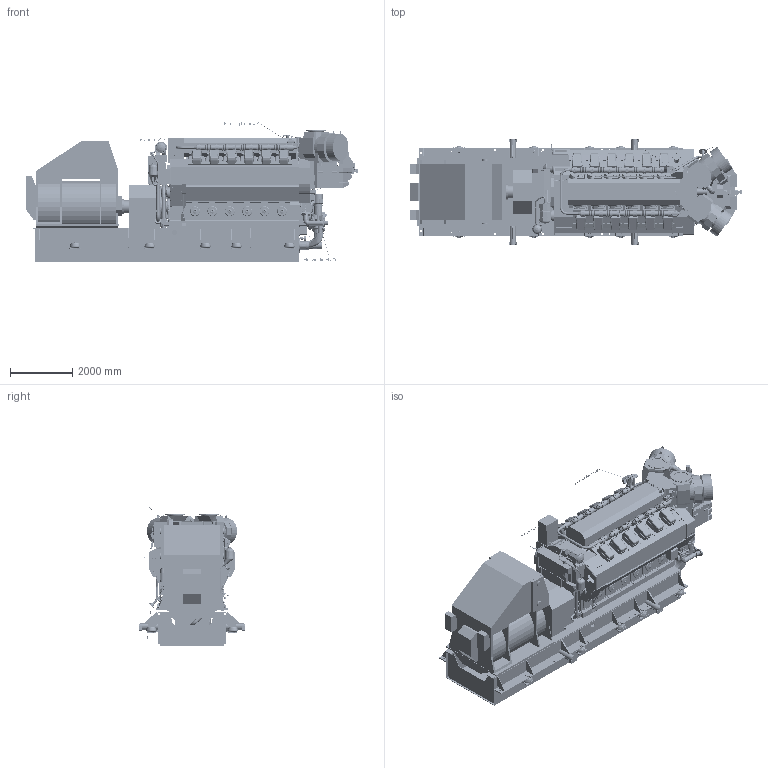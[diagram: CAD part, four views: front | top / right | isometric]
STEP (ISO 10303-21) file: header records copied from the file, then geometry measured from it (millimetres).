
FILE_DESCRIPTION(/* description */ (''),/* implementation_level */ '2;1');
FILE_NAME(/* name */ 'DAAF379595_B.stp',/* time_stamp */ '2021-12-10T12:50:35+02:00',/* author */ (''),/* organization */ (''),/* preprocessor_version */ 'ST-DEVELOPER v16.7',/* originating_system */ 'SIEMENS PLM Software NX 1915',/* authorisation */ '');
FILE_SCHEMA (('AUTOMOTIVE_DESIGN { 1 0 10303 214 3 1 1 1 }'));
Products named in the file (83): PABA274494_-; PAAF695508_-; PAAF093449_-; PAAF074446_-; PABA053131_-; PABA002081_-; PAAF243367_-; PAAF066761_-; PAAF688045_-; PAAF688053_-; PABA173946_-; PABA156629_-; PABA068010_-; PABA067993_-; PAAF074393_-; PAAF078522_-; PABA001772_-; PABA002426_-; PAAF078708_-; PAAF688051_-; PABA041040_-; PAAF243373_-; PAAF689738_-; PAAF211478_-; PAAF427671_-; PAAF450547_-; PAAF695507_-; PABA033164_-; PAAF066738_-; PAAF093834_-; PAAF078635_-; PAAF077590_-; PAAF078607_-; PAAF078553_-; PAAF077589_-; PAAF688036_-; PAAF220774_-; PAAF221638_-; PAAF166694_-; PAAF078536_-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
Assembly tree (95 placements, depth 3):
  PABA271987_-
    PABA271988_-_MODEL
      PABA174038_-  x10
    PABA271993_-
    PABA271994_-_MODEL
      PABA036926_-
      PAAF063634_-
      PAAF238216_-
      PABA034962_-
      PAAF295070_-
      PABA001563_-
      PABA052452_-
      PABA052478_-
      PABA052425_-
      PABA053684_-
      PAAF243684_-
      PAAF074389_-
      PAAF852803_-
      PAAF304653_-
      PAAF087001_-
      PAAF243666_-
      PAAF565855_-
      PAAF078239_-
      PAAF991059_-
      PAAF078077_-
      PAAF087123_-
      PAAF247464_-
      PAAF087117_-
      PAAF087083_-
      PAAF087113_-
      PABA076699_-
      PAAF245056_-
      PAAF243370_-
      PAAF087128_-
      PAAF990034_-
      PAAF078535_-
      PAAF087138_-
      PAAF074410_-  x2
      PAAF087147_-
      PAAF078536_-
      PAAF166694_-
      PAAF221638_-
      PAAF220774_-
      PAAF688036_-
      PAAF077589_-
      PAAF078553_-
      PAAF078607_-
      PAAF077590_-
      PAAF078635_-
      PAAF093834_-
      PAAF066738_-
      PABA033164_-
      PAAF695507_-
      PAAF450547_-
      PAAF427671_-
      PAAF211478_-
      PAAF689738_-
      PAAF243373_-
      PABA041040_-
      PAAF688051_-
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Bounding box: 10687.98 x 3394 x 4526.9 mm (x, y, z)
Volume: 43351151448.5 mm3; surface area: 552699284.2 mm2
Topology: 580 solids, 716 shells, 20084 faces, 48673 edges, 31237 vertices
Faces by surface type: plane 10885, cylinder 4874, bspline 2313, extrusion 840, torus 805, cone 351, revolution 9, sphere 7
Full cylindrical faces by diameter (mm): 0.107 x1, 3.3 x12, 5 x15, 6 x16, 8 x54, 8.5 x1, 8.993 x3, 9 x20, 9.685 x1, 9.69 x1, 10 x23, 10.25 x4, 11 x19, 11.908 x1, 11.995 x1, 12 x108, 12.6 x2, 13.2 x4, 13.5 x5, 13.6 x2, 14 x63, 14.596 x1, 15 x59, 15.5 x4, 15.6 x1, 15.7 x4, 16 x19, 16.376 x1, 16.658 x1, 17 x2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
Entity records: 666344 total; most frequent: CARTESIAN_POINT 244297, DIRECTION 81766, ORIENTED_EDGE 81488, EDGE_CURVE 40744, AXIS2_PLACEMENT_3D 28915, VERTEX_POINT 27572, VECTOR 23927, EDGE_LOOP 23899
